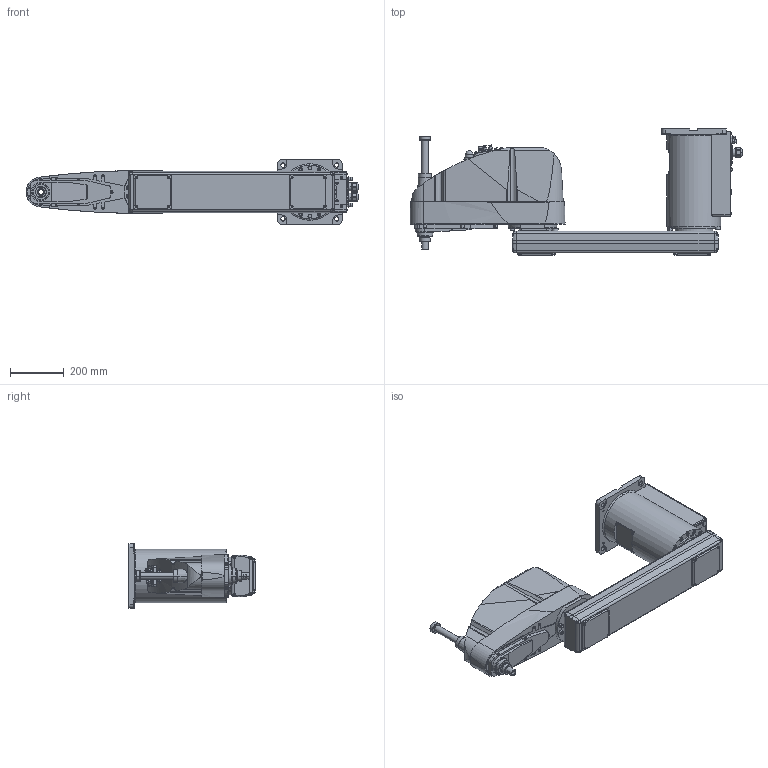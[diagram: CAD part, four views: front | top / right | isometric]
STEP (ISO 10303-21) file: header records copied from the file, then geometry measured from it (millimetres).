
FILE_DESCRIPTION( ( '' ), '1' );
FILE_NAME( '//expscmdclustefs.cadenas.external/client_exchange/iodir/jobs/output/wkb51489101_no0/STEP/G20_A01SR_2_14b.stp', '2012-11-22T08:37:14', ( '' ), ( '' ), ' ', ' ', ' ' );
FILE_SCHEMA( ( 'automotive_design' ) );
Length unit declared in the file: millimetre
Products named in the file (4): 1; 2; 3; 4
Bounding box: 1234.5 x 469 x 240 mm (x, y, z)
Volume: 42333202.4 mm3; surface area: 1436541 mm2
Topology: 4 solids, 5 shells, 1775 faces, 4308 edges, 2796 vertices
Faces by surface type: plane 990, cylinder 573, cone 188, torus 23, sphere 1
Entity records: 102779 total; most frequent: CARTESIAN_POINT 10266, DIRECTION 9168, STYLED_ITEM 8871, PRESENTATION_STYLE_ASSIGNMENT 8871, COLOUR_RGB 8871, ORIENTED_EDGE 8592, EDGE_CURVE 4296, CURVE_STYLE 4296
